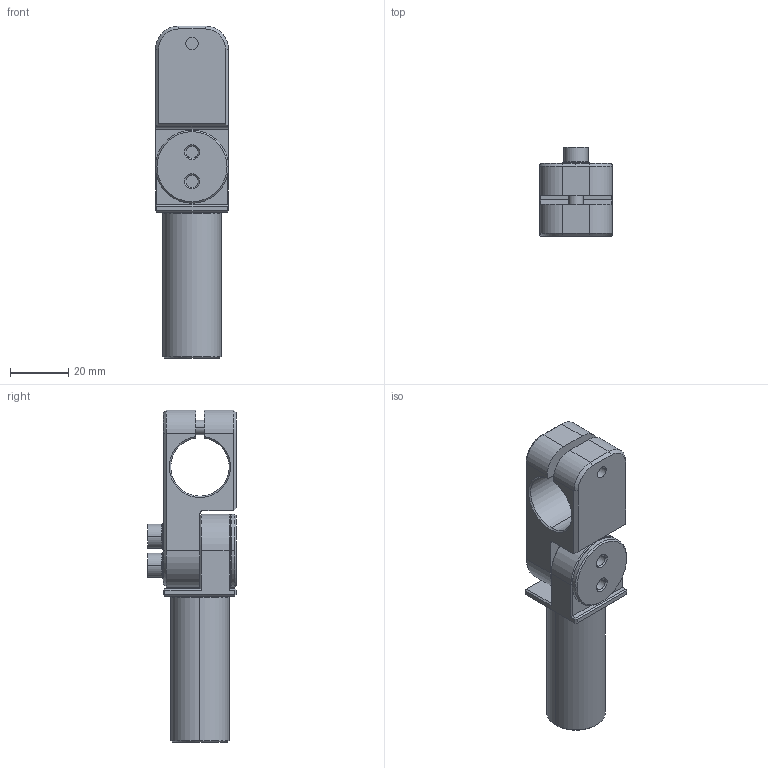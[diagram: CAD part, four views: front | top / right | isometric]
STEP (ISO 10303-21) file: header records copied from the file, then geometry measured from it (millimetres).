
FILE_DESCRIPTION (( 'STEP AP214' ), '1' );
FILE_NAME ('SEAH-2020L50T.STEP', '2023-01-31T03:42:11', ( 'Windows User' ), ( 'P R C' ), 'SwSTEP 2.0', 'SolidWorks 2019', '' );
FILE_SCHEMA (( 'AUTOMOTIVE_DESIGN' ));
Length unit declared in the file: millimetre
Products named in the file (7): SEAH-2020L50T; SEAH-2020L50.3; SEAH-2020L50.1; PTC-M5L16; SEAH-2020L50.2; PTS-M5; PTC-M5L20
Assembly tree (9 placements, depth 2):
  SEAH-2020L50T
    SEAH-2020L50.1
    SEAH-2020L50.2
    SEAH-2020L50.3
    PTC-M5L16
    PTC-M5L20  x2
    PTS-M5  x3
Bounding box: 25 x 30.45 x 113.7 mm (x, y, z)
Volume: 36834.4 mm3; surface area: 19687.8 mm2
Topology: 9 solids, 9 shells, 689 faces, 1910 edges, 1242 vertices
Faces by surface type: plane 568, cone 61, cylinder 58, bspline 2
Entity records: 11001 total; most frequent: CARTESIAN_POINT 2098, DIRECTION 1889, ORIENTED_EDGE 1768, EDGE_CURVE 884, AXIS2_PLACEMENT_3D 663, LINE 563, VECTOR 563, VERTEX_POINT 560
